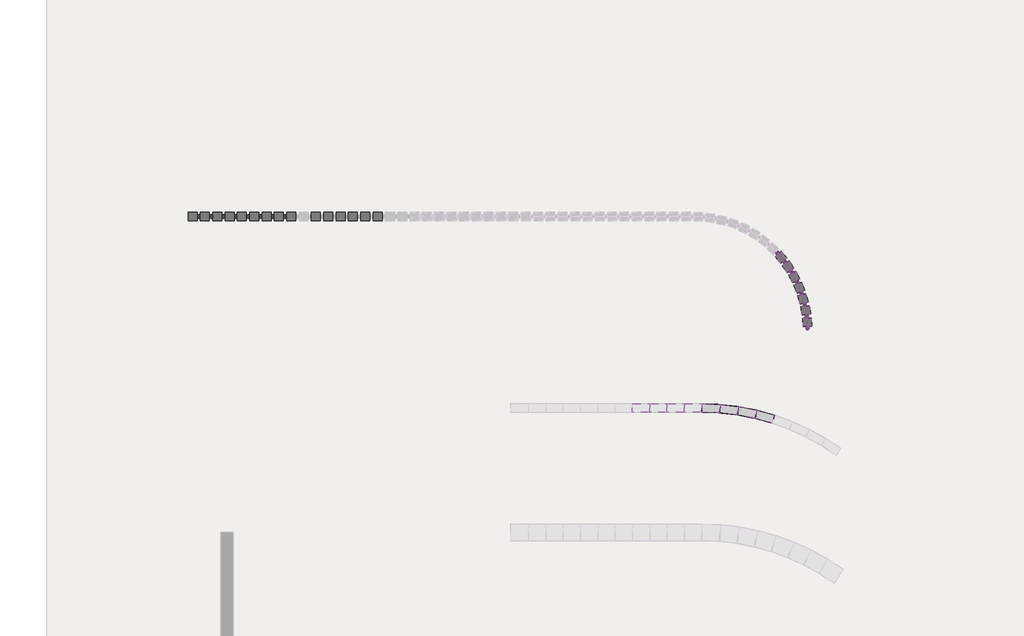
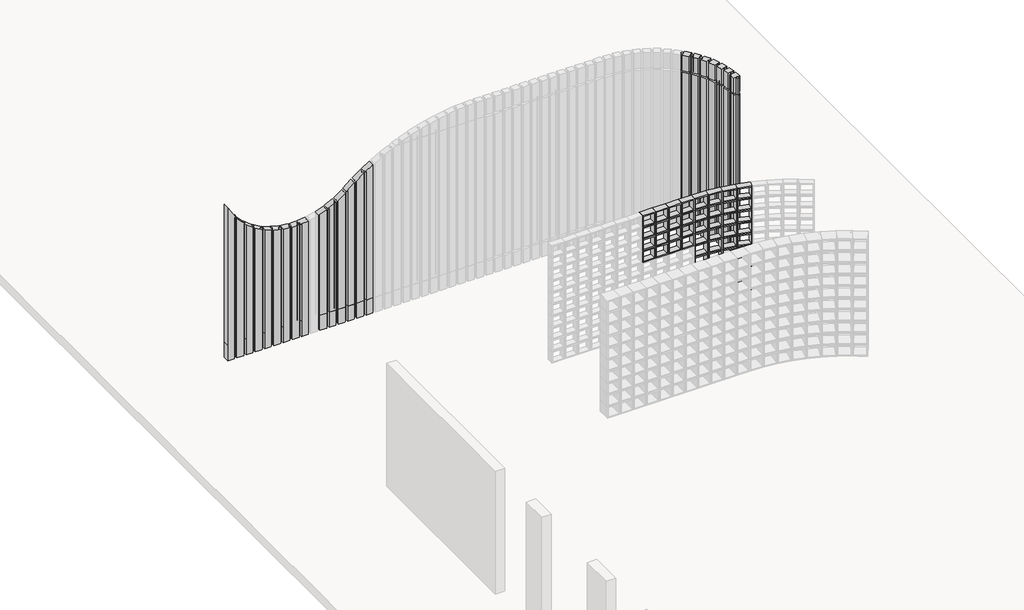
# One storey, part 9 of 15: 91 plates, 42 members.
"""IFC4 building model written with IfcOpenShell, lengths in millimetres."""

from ifc_helpers import new_model, si_unit, origin, place, context, project, spatial, transform, mapped, element, save
from components import circular_mullion_9bc5a1a1, circular_mullion_f2f76ee6, circular_mullion_f3b0c618, circular_mullion_598166cf, circular_mullion_dbb40213, circular_mullion_bc05f9c5, circular_mullion_d627afaf, circular_mullion_25bdcd02, circular_mullion_e8a92ebc, circular_mullion_f0fc4721, circular_mullion_dbe84026, circular_mullion_3d088c91, circular_mullion_b72c217d, rectangular_mullion_91b8a297, plate_64430686, plate_6f004fc1, empty_system_panel_vazio_54c19a60, empty_system_panel_vazio_90e492d3, empty_system_panel_vazio_a0e43196, empty_system_panel_vazio_c9e882c8, empty_system_panel_vazio_26861695, empty_system_panel_vazio_706881e9, empty_system_panel_vazio_7a6be532, empty_system_panel_vazio_fe81b130, empty_system_panel_vazio_3a64aa83, empty_system_panel_vazio_5330fe84, empty_system_panel_vazio_6bf3c55c, empty_system_panel_vazio_673e1f21, empty_system_panel_vazio_2f86a139, empty_system_panel_vazio_a3524aa6, empty_system_panel_vazio_c92cf2f5, empty_system_panel_vazio_d471524a, empty_system_panel_vazio_a540620c, empty_system_panel_vazio_f7d425da

model = new_model("IFC4")

# Units and contexts
model_context = context("Model", 3, world=origin())
ifc_project = project(units=[si_unit("LENGTHUNIT", "METRE", prefix="MILLI")], contexts=[model_context])

# Site, building, storey
site = spatial("IfcSite", under=ifc_project)
building = spatial("IfcBuilding", under=site)
storey = spatial("IfcBuildingStorey", under=building, Name="TÉRREO", Elevation=0.0)

# Members
placement = place(None, origin())
circular_mullion_shape = circular_mullion_9bc5a1a1(model_context)
element("IfcMember", 1, ObjectType="Circular Mullion : GRADIL 40mm", at=placement, inside=storey, context=model_context, shape_type="MappedRepresentation", body=[
    mapped(circular_mullion_shape, transform((41910.6284273, 8426.4806607, 0.0), x_axis=(-1.0, 0.0, 0.0), y_axis=(0.0, 1.0, 0.0), z_axis=(0.0, 0.0, -1.0))),
])
element("IfcMember", 2, ObjectType="Circular Mullion : GRADIL 40mm", at=placement, inside=storey, context=model_context, shape_type="MappedRepresentation", body=[
    mapped(circular_mullion_shape, transform((41761.8479395, 8426.4806607, 0.0), x_axis=(-1.0, 0.0, 0.0), y_axis=(0.0, 1.0, 0.0), z_axis=(0.0, 0.0, -1.0))),
])
element("IfcMember", 3, ObjectType="Circular Mullion : GRADIL 40mm", at=placement, inside=storey, context=model_context, shape_type="MappedRepresentation", body=[
    mapped(circular_mullion_shape, transform((41613.0674517, 8426.4806607, 0.0), x_axis=(-1.0, 0.0, 0.0), y_axis=(0.0, 1.0, 0.0), z_axis=(0.0, 0.0, -1.0))),
])
element("IfcMember", 4, ObjectType="Circular Mullion : GRADIL 40mm", at=placement, inside=storey, context=model_context, shape_type="MappedRepresentation", body=[
    mapped(circular_mullion_shape, transform((40869.1650127, 8426.4806607, 0.0), x_axis=(-1.0, 0.0, 0.0), y_axis=(0.0, 1.0, 0.0), z_axis=(0.0, 0.0, -1.0))),
])
element("IfcMember", 5, ObjectType="Circular Mullion : GRADIL 40mm", at=placement, inside=storey, context=model_context, shape_type="MappedRepresentation", body=[
    mapped(circular_mullion_shape, transform((40720.3845249, 8426.4806607, 0.0), x_axis=(-1.0, 0.0, 0.0), y_axis=(0.0, 1.0, 0.0), z_axis=(0.0, 0.0, -1.0))),
])
element("IfcMember", 6, ObjectType="Circular Mullion : GRADIL 40mm", at=placement, inside=storey, context=model_context, shape_type="MappedRepresentation", body=[
    mapped(circular_mullion_shape, transform((40571.6040371, 8426.4806607, 0.0), x_axis=(-1.0, 0.0, 0.0), y_axis=(0.0, 1.0, 0.0), z_axis=(0.0, 0.0, -1.0))),
])
element("IfcMember", 7, ObjectType="Circular Mullion : GRADIL 40mm", at=placement, inside=storey, context=model_context, shape_type="MappedRepresentation", body=[
    mapped(circular_mullion_shape, transform((40422.8235493, 8426.4806607, 0.0), x_axis=(-1.0, 0.0, 0.0), y_axis=(0.0, 1.0, 0.0), z_axis=(0.0, 0.0, -1.0))),
])
element("IfcMember", 8, ObjectType="Circular Mullion : GRADIL 40mm", at=placement, inside=storey, context=model_context, shape_type="MappedRepresentation", body=[
    mapped(circular_mullion_shape, transform((40274.0430615, 8426.4806607, 0.0), x_axis=(-1.0, 0.0, 0.0), y_axis=(0.0, 1.0, 0.0), z_axis=(0.0, 0.0, -1.0))),
])
element("IfcMember", 9, ObjectType="Circular Mullion : GRADIL 40mm", at=placement, inside=storey, context=model_context, shape_type="MappedRepresentation", body=[
    mapped(circular_mullion_shape, transform((40125.2625737, 8426.4806607, 0.0), x_axis=(-1.0, 0.0, 0.0), y_axis=(0.0, 1.0, 0.0), z_axis=(0.0, 0.0, -1.0))),
])
element("IfcMember", 10, ObjectType="Circular Mullion : GRADIL 40mm", at=placement, inside=storey, context=model_context, shape_type="MappedRepresentation", body=[
    mapped(circular_mullion_shape, transform((39976.4820859, 8426.4806607, 0.0), x_axis=(-1.0, 0.0, 0.0), y_axis=(0.0, 1.0, 0.0), z_axis=(0.0, 0.0, -1.0))),
])
element("IfcMember", 11, ObjectType="Circular Mullion : GRADIL 40mm", at=placement, inside=storey, context=model_context, shape_type="MappedRepresentation", body=[
    mapped(circular_mullion_shape, transform((39827.701598, 8426.4806607, 0.0), x_axis=(-1.0, 0.0, 0.0), y_axis=(0.0, 1.0, 0.0), z_axis=(0.0, 0.0, -1.0))),
])
circular_mullion_2_shape = circular_mullion_f2f76ee6(model_context)
element("IfcMember", 12, ObjectType="Circular Mullion : GRADIL 40mm", at=placement, inside=storey, context=model_context, shape_type="MappedRepresentation", body=[
    mapped(circular_mullion_2_shape, transform((47161.6124239, 7222.1280663, 2720.0), x_axis=(-0.12289512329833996, 0.992419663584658, 0.0), y_axis=(0.992419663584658, 0.12289512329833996, 0.0), z_axis=(0.0, 0.0, -1.0))),
])
element("IfcMember", 13, ObjectType="Circular Mullion : GRADIL 40mm", at=placement, inside=storey, context=model_context, shape_type="MappedRepresentation", body=[
    mapped(circular_mullion_2_shape, transform((47136.5950322, 7363.2706696, 2720.0), x_axis=(-0.22568633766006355, 0.9742000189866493, 0.0), y_axis=(0.9742000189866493, 0.22568633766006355, 0.0), z_axis=(0.0, 0.0, -1.0))),
])
element("IfcMember", 14, ObjectType="Circular Mullion : GRADIL 40mm", at=placement, inside=storey, context=model_context, shape_type="MappedRepresentation", body=[
    mapped(circular_mullion_2_shape, transform((47096.9996846, 7501.0360964, 2720.0), x_axis=(-0.32601802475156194, 0.9453635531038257, 0.0), y_axis=(0.9453635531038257, 0.32601802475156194, 0.0), z_axis=(0.0, 0.0, -1.0))),
])
element("IfcMember", 15, ObjectType="Circular Mullion : GRADIL 40mm", at=placement, inside=storey, context=model_context, shape_type="MappedRepresentation", body=[
    mapped(circular_mullion_2_shape, transform((47043.2578906, 7633.9229804, 2720.0), x_axis=(-0.4227967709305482, 0.9062245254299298, 0.0), y_axis=(0.9062245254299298, 0.4227967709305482, 0.0), z_axis=(0.0, 0.0, -1.0))),
])
element("IfcMember", 16, ObjectType="Circular Mullion : GRADIL 40mm", at=placement, inside=storey, context=model_context, shape_type="MappedRepresentation", body=[
    mapped(circular_mullion_2_shape, transform((46975.9553279, 7760.4831219, 2720.0), x_axis=(-0.5149678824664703, 0.857209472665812, 0.0), y_axis=(0.857209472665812, 0.5149678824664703, 0.0), z_axis=(0.0, 0.0, -1.0))),
])
element("IfcMember", 17, ObjectType="Circular Mullion : GRADIL 40mm", at=placement, inside=storey, context=model_context, shape_type="MappedRepresentation", body=[
    mapped(circular_mullion_2_shape, transform((46895.825459, 7879.3372698, 2720.0), x_axis=(-0.6015268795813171, 0.7988525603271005, 0.0), y_axis=(0.7988525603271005, 0.6015268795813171, 0.0), z_axis=(0.0, 0.0, -1.0))),
])
element("IfcMember", 18, ObjectType="Circular Mullion : GRADIL 40mm", at=placement, inside=storey, context=model_context, shape_type="MappedRepresentation", body=[
    mapped(circular_mullion_2_shape, transform((46803.7415384, 7989.1901529, 2720.0), x_axis=(-0.68153044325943, 0.7317897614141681, 0.0), y_axis=(0.7317897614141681, 0.68153044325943, 0.0), z_axis=(0.0, 0.0, -1.0))),
])
circular_mullion_3_shape = circular_mullion_f3b0c618(model_context)
element("IfcMember", 19, ObjectType="Circular Mullion : GRADIL 40mm", at=placement, inside=storey, context=model_context, shape_type="MappedRepresentation", body=[
    mapped(circular_mullion_3_shape, transform((40869.1650127, 8426.4806607, 256.7936467), x_axis=(-1.0, 0.0, 0.0), y_axis=(0.0, 1.0, 0.0), z_axis=(0.0, 0.0, -1.0))),
])
circular_mullion_4_shape = circular_mullion_598166cf(model_context)
element("IfcMember", 20, ObjectType="Circular Mullion : GRADIL 40mm", at=placement, inside=storey, context=model_context, shape_type="MappedRepresentation", body=[
    mapped(circular_mullion_4_shape, transform((40720.3845249, 8426.4806607, 256.7936467), x_axis=(-1.0, 0.0, 0.0), y_axis=(0.0, 1.0, 0.0), z_axis=(0.0, 0.0, -1.0))),
])
circular_mullion_5_shape = circular_mullion_dbb40213(model_context)
element("IfcMember", 21, ObjectType="Circular Mullion : GRADIL 40mm", at=placement, inside=storey, context=model_context, shape_type="MappedRepresentation", body=[
    mapped(circular_mullion_5_shape, transform((40571.6040371, 8426.4806607, 256.7936467), x_axis=(-1.0, 0.0, 0.0), y_axis=(0.0, 1.0, 0.0), z_axis=(0.0, 0.0, -1.0))),
])
circular_mullion_6_shape = circular_mullion_bc05f9c5(model_context)
element("IfcMember", 22, ObjectType="Circular Mullion : GRADIL 40mm", at=placement, inside=storey, context=model_context, shape_type="MappedRepresentation", body=[
    mapped(circular_mullion_6_shape, transform((40422.8235493, 8426.4806607, 256.7936467), x_axis=(-1.0, 0.0, 0.0), y_axis=(0.0, 1.0, 0.0), z_axis=(0.0, 0.0, -1.0))),
])
circular_mullion_7_shape = circular_mullion_d627afaf(model_context)
element("IfcMember", 23, ObjectType="Circular Mullion : GRADIL 40mm", at=placement, inside=storey, context=model_context, shape_type="MappedRepresentation", body=[
    mapped(circular_mullion_7_shape, transform((40274.0430615, 8426.4806607, 256.7936467), x_axis=(-1.0, 0.0, 0.0), y_axis=(0.0, 1.0, 0.0), z_axis=(0.0, 0.0, -1.0))),
])
circular_mullion_8_shape = circular_mullion_25bdcd02(model_context)
element("IfcMember", 24, ObjectType="Circular Mullion : GRADIL 40mm", at=placement, inside=storey, context=model_context, shape_type="MappedRepresentation", body=[
    mapped(circular_mullion_8_shape, transform((40125.2625737, 8426.4806607, 256.7936467), x_axis=(-1.0, 0.0, 0.0), y_axis=(0.0, 1.0, 0.0), z_axis=(0.0, 0.0, -1.0))),
])
circular_mullion_9_shape = circular_mullion_e8a92ebc(model_context)
element("IfcMember", 25, ObjectType="Circular Mullion : GRADIL 40mm", at=placement, inside=storey, context=model_context, shape_type="MappedRepresentation", body=[
    mapped(circular_mullion_9_shape, transform((39976.4820859, 8426.4806607, 256.7936467), x_axis=(-1.0, 0.0, 0.0), y_axis=(0.0, 1.0, 0.0), z_axis=(0.0, 0.0, -1.0))),
])
circular_mullion_10_shape = circular_mullion_f0fc4721(model_context)
element("IfcMember", 26, ObjectType="Circular Mullion : GRADIL 40mm", at=placement, inside=storey, context=model_context, shape_type="MappedRepresentation", body=[
    mapped(circular_mullion_10_shape, transform((39827.701598, 8426.4806607, 256.7936467), x_axis=(-1.0, 0.0, 0.0), y_axis=(0.0, 1.0, 0.0), z_axis=(0.0, 0.0, -1.0))),
])
circular_mullion_11_shape = circular_mullion_dbe84026(model_context)
element("IfcMember", 27, ObjectType="Circular Mullion : GRADIL 40mm", at=placement, inside=storey, context=model_context, shape_type="MappedRepresentation", body=[
    mapped(circular_mullion_11_shape, transform((47172.0090025, 7059.1166556, 3000.0), x_axis=(0.06364890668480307, -0.9979723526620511, 0.0), y_axis=(0.9979723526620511, 0.06364890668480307, 0.0), z_axis=(0.0, 0.0, 1.0))),
])
circular_mullion_12_shape = circular_mullion_3d088c91(model_context)
element("IfcMember", 28, ObjectType="Circular Mullion : GRADIL 40mm", at=placement, inside=storey, context=model_context, shape_type="MappedRepresentation", body=[
    mapped(circular_mullion_12_shape, transform((47161.6124239, 7222.1280663, 0.0), x_axis=(-0.12289512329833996, 0.992419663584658, 0.0), y_axis=(0.992419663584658, 0.12289512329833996, 0.0), z_axis=(0.0, 0.0, -1.0))),
])
element("IfcMember", 29, ObjectType="Circular Mullion : GRADIL 40mm", at=placement, inside=storey, context=model_context, shape_type="MappedRepresentation", body=[
    mapped(circular_mullion_12_shape, transform((47136.5950322, 7363.2706696, 0.0), x_axis=(-0.2256863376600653, 0.9742000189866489, 0.0), y_axis=(0.9742000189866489, 0.2256863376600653, 0.0), z_axis=(0.0, 0.0, -1.0))),
])
element("IfcMember", 30, ObjectType="Circular Mullion : GRADIL 40mm", at=placement, inside=storey, context=model_context, shape_type="MappedRepresentation", body=[
    mapped(circular_mullion_12_shape, transform((47096.9996846, 7501.0360964, 0.0), x_axis=(-0.3260180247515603, 0.9453635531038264, 0.0), y_axis=(0.9453635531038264, 0.3260180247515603, 0.0), z_axis=(0.0, 0.0, -1.0))),
])
element("IfcMember", 31, ObjectType="Circular Mullion : GRADIL 40mm", at=placement, inside=storey, context=model_context, shape_type="MappedRepresentation", body=[
    mapped(circular_mullion_12_shape, transform((47043.2578906, 7633.9229804, 0.0), x_axis=(-0.42279677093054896, 0.9062245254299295, 0.0), y_axis=(0.9062245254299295, 0.42279677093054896, 0.0), z_axis=(0.0, 0.0, -1.0))),
])
element("IfcMember", 32, ObjectType="Circular Mullion : GRADIL 40mm", at=placement, inside=storey, context=model_context, shape_type="MappedRepresentation", body=[
    mapped(circular_mullion_12_shape, transform((46975.9553279, 7760.4831219, 0.0), x_axis=(-0.5149678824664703, 0.857209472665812, 0.0), y_axis=(0.857209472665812, 0.5149678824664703, 0.0), z_axis=(0.0, 0.0, -1.0))),
])
element("IfcMember", 33, ObjectType="Circular Mullion : GRADIL 40mm", at=placement, inside=storey, context=model_context, shape_type="MappedRepresentation", body=[
    mapped(circular_mullion_12_shape, transform((46895.825459, 7879.3372698, 0.0), x_axis=(-0.6015268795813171, 0.7988525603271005, 0.0), y_axis=(0.7988525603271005, 0.6015268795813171, 0.0), z_axis=(0.0, 0.0, -1.0))),
])
element("IfcMember", 34, ObjectType="Circular Mullion : GRADIL 40mm", at=placement, inside=storey, context=model_context, shape_type="MappedRepresentation", body=[
    mapped(circular_mullion_12_shape, transform((46803.7415384, 7989.1901529, 0.0), x_axis=(-0.68153044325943, 0.7317897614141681, 0.0), y_axis=(0.7317897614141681, 0.68153044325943, 0.0), z_axis=(0.0, 0.0, -1.0))),
])
circular_mullion_13_shape = circular_mullion_b72c217d(model_context)
element("IfcMember", 35, ObjectType="Circular Mullion : GRADIL 40mm", at=placement, inside=storey, context=model_context, shape_type="MappedRepresentation", body=[
    mapped(circular_mullion_13_shape, transform((47172.0090025, 7059.1166556, 2720.0), x_axis=(0.06364890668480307, -0.9979723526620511, 0.0), y_axis=(0.9979723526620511, 0.06364890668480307, 0.0), z_axis=(0.0, 0.0, 1.0))),
])
rectangular_mullion_shape = rectangular_mullion_91b8a297(model_context)
element("IfcMember", 36, ObjectType="Rectangular Mullion : MT HRZ GRADIL 01", at=placement, inside=storey, context=model_context, shape_type="MappedRepresentation", body=[
    mapped(rectangular_mullion_shape, transform((47162.885402, 7202.1686192, 2720.0), x_axis=(0.0, 0.0, 1.0), y_axis=(0.9979723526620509, 0.06364890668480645, 0.0), z_axis=(-0.06364890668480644, 0.9979723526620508, 0.0))),
])
element("IfcMember", 37, ObjectType="Rectangular Mullion : MT HRZ GRADIL 01", at=placement, inside=storey, context=model_context, shape_type="MappedRepresentation", body=[
    mapped(rectangular_mullion_shape, transform((47140.0856051, 7343.5776277, 2720.0), x_axis=(0.0, 0.0, 1.0), y_axis=(0.9846520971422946, 0.1745286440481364, 0.0), z_axis=(-0.1745286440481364, 0.9846520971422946, 0.0))),
])
element("IfcMember", 38, ObjectType="Rectangular Mullion : MT HRZ GRADIL 01", at=placement, inside=storey, context=model_context, shape_type="MappedRepresentation", body=[
    mapped(rectangular_mullion_shape, transform((47102.5242592, 7481.8142579, 2720.0), x_axis=(0.0, 0.0, 1.0), y_axis=(0.9610919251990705, 0.2762287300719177, 0.0), z_axis=(-0.2762287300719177, 0.9610919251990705, 0.0))),
])
element("IfcMember", 39, ObjectType="Rectangular Mullion : MT HRZ GRADIL 01", at=placement, inside=storey, context=model_context, shape_type="MappedRepresentation", body=[
    mapped(rectangular_mullion_shape, transform((47050.7562602, 7615.3818247, 2720.0), x_axis=(0.0, 0.0, 1.0), y_axis=(0.9270577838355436, 0.37491847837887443, 0.0), z_axis=(-0.37491847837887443, 0.9270577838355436, 0.0))),
])
element("IfcMember", 40, ObjectType="Rectangular Mullion : MT HRZ GRADIL 01", at=placement, inside=storey, context=model_context, shape_type="MappedRepresentation", body=[
    mapped(rectangular_mullion_shape, transform((46985.3457753, 7742.8247104, 2720.0), x_axis=(0.0, 0.0, 1.0), y_axis=(0.882920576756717, 0.46952236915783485, 0.0), z_axis=(-0.46952236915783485, 0.882920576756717, 0.0))),
])
element("IfcMember", 41, ObjectType="Rectangular Mullion : MT HRZ GRADIL 01", at=placement, inside=storey, context=model_context, shape_type="MappedRepresentation", body=[
    mapped(rectangular_mullion_shape, transform((46907.0056472, 7862.7540436, 2720.0), x_axis=(0.0, 0.0, 1.0), y_axis=(0.8291613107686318, 0.5590094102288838, 0.0), z_axis=(-0.5590094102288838, 0.8291613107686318, 0.0))),
])
element("IfcMember", 42, ObjectType="Rectangular Mullion : MT HRZ GRADIL 01", at=placement, inside=storey, context=model_context, shape_type="MappedRepresentation", body=[
    mapped(rectangular_mullion_shape, transform((46816.5896259, 7973.8628358, 2720.0), x_axis=(0.0, 0.0, 1.0), y_axis=(0.7663658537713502, 0.6424043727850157, 0.0), z_axis=(-0.6424043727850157, 0.7663658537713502, 0.0))),
])

# Plates
plate_shape = plate_64430686(model_context)
element("IfcPlate", 43, ObjectType="pnl - ELEMENTO VAZADO QUADRICULADO : e = 10", at=placement, inside=storey, context=model_context, shape_type="MappedRepresentation", body=[
    mapped(plate_shape, transform((45160.2941159, 6116.9852574, 1200.0), x_axis=(1.0, 0.0, 0.0), y_axis=(0.0, 1.0, 0.0), z_axis=(0.0, 0.0, 1.0))),
])
element("IfcPlate", 44, ObjectType="pnl - ELEMENTO VAZADO QUADRICULADO : e = 10", at=placement, inside=storey, context=model_context, shape_type="MappedRepresentation", body=[
    mapped(plate_shape, transform((45369.385025, 6116.9852574, 1200.0), x_axis=(1.0, 0.0, 0.0), y_axis=(0.0, 1.0, 0.0), z_axis=(0.0, 0.0, 1.0))),
])
element("IfcPlate", 45, ObjectType="pnl - ELEMENTO VAZADO QUADRICULADO : e = 10", at=placement, inside=storey, context=model_context, shape_type="MappedRepresentation", body=[
    mapped(plate_shape, transform((45578.4759341, 6116.9852574, 1200.0), x_axis=(1.0, 0.0, 0.0), y_axis=(0.0, 1.0, 0.0), z_axis=(0.0, 0.0, 1.0))),
])
element("IfcPlate", 46, ObjectType="pnl - ELEMENTO VAZADO QUADRICULADO : e = 10", at=placement, inside=storey, context=model_context, shape_type="MappedRepresentation", body=[
    mapped(plate_shape, transform((45787.5668432, 6116.9852574, 1200.0), x_axis=(1.0, 0.0, 0.0), y_axis=(0.0, 1.0, 0.0), z_axis=(0.0, 0.0, 1.0))),
])
element("IfcPlate", 47, ObjectType="pnl - ELEMENTO VAZADO QUADRICULADO : e = 10", at=placement, inside=storey, context=model_context, shape_type="MappedRepresentation", body=[
    mapped(plate_shape, transform((45160.2941159, 6116.9852574, 1400.0), x_axis=(1.0, 0.0, 0.0), y_axis=(0.0, 1.0, 0.0), z_axis=(0.0, 0.0, 1.0))),
])
element("IfcPlate", 48, ObjectType="pnl - ELEMENTO VAZADO QUADRICULADO : e = 10", at=placement, inside=storey, context=model_context, shape_type="MappedRepresentation", body=[
    mapped(plate_shape, transform((45369.385025, 6116.9852574, 1400.0), x_axis=(1.0, 0.0, 0.0), y_axis=(0.0, 1.0, 0.0), z_axis=(0.0, 0.0, 1.0))),
])
element("IfcPlate", 49, ObjectType="pnl - ELEMENTO VAZADO QUADRICULADO : e = 10", at=placement, inside=storey, context=model_context, shape_type="MappedRepresentation", body=[
    mapped(plate_shape, transform((45578.4759341, 6116.9852574, 1400.0), x_axis=(1.0, 0.0, 0.0), y_axis=(0.0, 1.0, 0.0), z_axis=(0.0, 0.0, 1.0))),
])
element("IfcPlate", 50, ObjectType="pnl - ELEMENTO VAZADO QUADRICULADO : e = 10", at=placement, inside=storey, context=model_context, shape_type="MappedRepresentation", body=[
    mapped(plate_shape, transform((45787.5668432, 6116.9852574, 1400.0), x_axis=(1.0, 0.0, 0.0), y_axis=(0.0, 1.0, 0.0), z_axis=(0.0, 0.0, 1.0))),
])
element("IfcPlate", 51, ObjectType="pnl - ELEMENTO VAZADO QUADRICULADO : e = 10", at=placement, inside=storey, context=model_context, shape_type="MappedRepresentation", body=[
    mapped(plate_shape, transform((45160.2941159, 6116.9852574, 1600.0), x_axis=(1.0, 0.0, 0.0), y_axis=(0.0, 1.0, 0.0), z_axis=(0.0, 0.0, 1.0))),
])
element("IfcPlate", 52, ObjectType="pnl - ELEMENTO VAZADO QUADRICULADO : e = 10", at=placement, inside=storey, context=model_context, shape_type="MappedRepresentation", body=[
    mapped(plate_shape, transform((45369.385025, 6116.9852574, 1600.0), x_axis=(1.0, 0.0, 0.0), y_axis=(0.0, 1.0, 0.0), z_axis=(0.0, 0.0, 1.0))),
])
element("IfcPlate", 53, ObjectType="pnl - ELEMENTO VAZADO QUADRICULADO : e = 10", at=placement, inside=storey, context=model_context, shape_type="MappedRepresentation", body=[
    mapped(plate_shape, transform((45578.4759341, 6116.9852574, 1600.0), x_axis=(1.0, 0.0, 0.0), y_axis=(0.0, 1.0, 0.0), z_axis=(0.0, 0.0, 1.0))),
])
element("IfcPlate", 54, ObjectType="pnl - ELEMENTO VAZADO QUADRICULADO : e = 10", at=placement, inside=storey, context=model_context, shape_type="MappedRepresentation", body=[
    mapped(plate_shape, transform((45787.5668432, 6116.9852574, 1600.0), x_axis=(1.0, 0.0, 0.0), y_axis=(0.0, 1.0, 0.0), z_axis=(0.0, 0.0, 1.0))),
])
element("IfcPlate", 55, ObjectType="pnl - ELEMENTO VAZADO QUADRICULADO : e = 10", at=placement, inside=storey, context=model_context, shape_type="MappedRepresentation", body=[
    mapped(plate_shape, transform((45160.2941159, 6116.9852574, 1800.0), x_axis=(1.0, 0.0, 0.0), y_axis=(0.0, 1.0, 0.0), z_axis=(0.0, 0.0, 1.0))),
])
element("IfcPlate", 56, ObjectType="pnl - ELEMENTO VAZADO QUADRICULADO : e = 10", at=placement, inside=storey, context=model_context, shape_type="MappedRepresentation", body=[
    mapped(plate_shape, transform((45369.385025, 6116.9852574, 1800.0), x_axis=(1.0, 0.0, 0.0), y_axis=(0.0, 1.0, 0.0), z_axis=(0.0, 0.0, 1.0))),
])
element("IfcPlate", 57, ObjectType="pnl - ELEMENTO VAZADO QUADRICULADO : e = 10", at=placement, inside=storey, context=model_context, shape_type="MappedRepresentation", body=[
    mapped(plate_shape, transform((45578.4759341, 6116.9852574, 1800.0), x_axis=(1.0, 0.0, 0.0), y_axis=(0.0, 1.0, 0.0), z_axis=(0.0, 0.0, 1.0))),
])
element("IfcPlate", 58, ObjectType="pnl - ELEMENTO VAZADO QUADRICULADO : e = 10", at=placement, inside=storey, context=model_context, shape_type="MappedRepresentation", body=[
    mapped(plate_shape, transform((45787.5668432, 6116.9852574, 1800.0), x_axis=(1.0, 0.0, 0.0), y_axis=(0.0, 1.0, 0.0), z_axis=(0.0, 0.0, 1.0))),
])
plate_2_shape = plate_6f004fc1(model_context)
element("IfcPlate", 59, ObjectType="pnl - ELEMENTO VAZADO QUADRICULADO : e = 10", at=placement, inside=storey, context=model_context, shape_type="MappedRepresentation", body=[
    mapped(plate_2_shape, transform((46002.1830661, 6112.7180919, 0.0), x_axis=(0.9992493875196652, -0.03873837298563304, 0.0), y_axis=(0.03873837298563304, 0.9992493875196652, 0.0), z_axis=(0.0, 0.0, 1.0))),
])
element("IfcPlate", 60, ObjectType="pnl - ELEMENTO VAZADO QUADRICULADO : e = 10", at=placement, inside=storey, context=model_context, shape_type="MappedRepresentation", body=[
    mapped(plate_2_shape, transform((46221.6638871, 6095.6750443, 0.0), x_axis=(0.993251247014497, -0.11598258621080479, 0.0), y_axis=(0.11598258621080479, 0.993251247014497, 0.0), z_axis=(0.0, 0.0, 1.0))),
])
element("IfcPlate", 61, ObjectType="pnl - ELEMENTO VAZADO QUADRICULADO : e = 10", at=placement, inside=storey, context=model_context, shape_type="MappedRepresentation", body=[
    mapped(plate_2_shape, transform((46439.1665264, 6061.6912525, 0.0), x_axis=(0.981290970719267, -0.1925305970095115, 0.0), y_axis=(0.1925305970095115, 0.981290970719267, 0.0), z_axis=(0.0, 0.0, 1.0))),
])
element("IfcPlate", 62, ObjectType="pnl - ELEMENTO VAZADO QUADRICULADO : e = 10", at=placement, inside=storey, context=model_context, shape_type="MappedRepresentation", body=[
    mapped(plate_2_shape, transform((46653.3853928, 6010.9707092, 0.0), x_axis=(0.9634403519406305, -0.2679229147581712, 0.0), y_axis=(0.2679229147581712, 0.9634403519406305, 0.0), z_axis=(0.0, 0.0, 1.0))),
])
element("IfcPlate", 63, ObjectType="pnl - ELEMENTO VAZADO QUADRICULADO : e = 10", at=placement, inside=storey, context=model_context, shape_type="MappedRepresentation", body=[
    mapped(plate_2_shape, transform((46002.1830661, 6112.7180919, 200.0), x_axis=(0.9992493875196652, -0.03873837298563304, 0.0), y_axis=(0.03873837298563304, 0.9992493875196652, 0.0), z_axis=(0.0, 0.0, 1.0))),
])
element("IfcPlate", 64, ObjectType="pnl - ELEMENTO VAZADO QUADRICULADO : e = 10", at=placement, inside=storey, context=model_context, shape_type="MappedRepresentation", body=[
    mapped(plate_2_shape, transform((46221.6638871, 6095.6750443, 200.0), x_axis=(0.993251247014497, -0.11598258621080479, 0.0), y_axis=(0.11598258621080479, 0.993251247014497, 0.0), z_axis=(0.0, 0.0, 1.0))),
])
element("IfcPlate", 65, ObjectType="pnl - ELEMENTO VAZADO QUADRICULADO : e = 10", at=placement, inside=storey, context=model_context, shape_type="MappedRepresentation", body=[
    mapped(plate_2_shape, transform((46439.1665264, 6061.6912525, 200.0), x_axis=(0.981290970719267, -0.1925305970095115, 0.0), y_axis=(0.1925305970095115, 0.981290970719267, 0.0), z_axis=(0.0, 0.0, 1.0))),
])
element("IfcPlate", 66, ObjectType="pnl - ELEMENTO VAZADO QUADRICULADO : e = 10", at=placement, inside=storey, context=model_context, shape_type="MappedRepresentation", body=[
    mapped(plate_2_shape, transform((46653.3853928, 6010.9707092, 200.0), x_axis=(0.9634403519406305, -0.2679229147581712, 0.0), y_axis=(0.2679229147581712, 0.9634403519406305, 0.0), z_axis=(0.0, 0.0, 1.0))),
])
element("IfcPlate", 67, ObjectType="pnl - ELEMENTO VAZADO QUADRICULADO : e = 10", at=placement, inside=storey, context=model_context, shape_type="MappedRepresentation", body=[
    mapped(plate_2_shape, transform((46002.1830661, 6112.7180919, 400.0), x_axis=(0.9992493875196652, -0.03873837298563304, 0.0), y_axis=(0.03873837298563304, 0.9992493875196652, 0.0), z_axis=(0.0, 0.0, 1.0))),
])
element("IfcPlate", 68, ObjectType="pnl - ELEMENTO VAZADO QUADRICULADO : e = 10", at=placement, inside=storey, context=model_context, shape_type="MappedRepresentation", body=[
    mapped(plate_2_shape, transform((46221.6638871, 6095.6750443, 400.0), x_axis=(0.993251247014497, -0.11598258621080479, 0.0), y_axis=(0.11598258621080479, 0.993251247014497, 0.0), z_axis=(0.0, 0.0, 1.0))),
])
element("IfcPlate", 69, ObjectType="pnl - ELEMENTO VAZADO QUADRICULADO : e = 10", at=placement, inside=storey, context=model_context, shape_type="MappedRepresentation", body=[
    mapped(plate_2_shape, transform((46439.1665264, 6061.6912525, 400.0), x_axis=(0.981290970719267, -0.1925305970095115, 0.0), y_axis=(0.1925305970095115, 0.981290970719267, 0.0), z_axis=(0.0, 0.0, 1.0))),
])
element("IfcPlate", 70, ObjectType="pnl - ELEMENTO VAZADO QUADRICULADO : e = 10", at=placement, inside=storey, context=model_context, shape_type="MappedRepresentation", body=[
    mapped(plate_2_shape, transform((46653.3853928, 6010.9707092, 400.0), x_axis=(0.9634403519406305, -0.2679229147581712, 0.0), y_axis=(0.2679229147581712, 0.9634403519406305, 0.0), z_axis=(0.0, 0.0, 1.0))),
])
element("IfcPlate", 71, ObjectType="pnl - ELEMENTO VAZADO QUADRICULADO : e = 10", at=placement, inside=storey, context=model_context, shape_type="MappedRepresentation", body=[
    mapped(plate_2_shape, transform((46002.1830661, 6112.7180919, 600.0), x_axis=(0.9992493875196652, -0.03873837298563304, 0.0), y_axis=(0.03873837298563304, 0.9992493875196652, 0.0), z_axis=(0.0, 0.0, 1.0))),
])
element("IfcPlate", 72, ObjectType="pnl - ELEMENTO VAZADO QUADRICULADO : e = 10", at=placement, inside=storey, context=model_context, shape_type="MappedRepresentation", body=[
    mapped(plate_2_shape, transform((46221.6638871, 6095.6750443, 600.0), x_axis=(0.993251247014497, -0.11598258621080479, 0.0), y_axis=(0.11598258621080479, 0.993251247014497, 0.0), z_axis=(0.0, 0.0, 1.0))),
])
element("IfcPlate", 73, ObjectType="pnl - ELEMENTO VAZADO QUADRICULADO : e = 10", at=placement, inside=storey, context=model_context, shape_type="MappedRepresentation", body=[
    mapped(plate_2_shape, transform((46439.1665264, 6061.6912525, 600.0), x_axis=(0.981290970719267, -0.1925305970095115, 0.0), y_axis=(0.1925305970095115, 0.981290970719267, 0.0), z_axis=(0.0, 0.0, 1.0))),
])
element("IfcPlate", 74, ObjectType="pnl - ELEMENTO VAZADO QUADRICULADO : e = 10", at=placement, inside=storey, context=model_context, shape_type="MappedRepresentation", body=[
    mapped(plate_2_shape, transform((46653.3853928, 6010.9707092, 600.0), x_axis=(0.9634403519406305, -0.2679229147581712, 0.0), y_axis=(0.2679229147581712, 0.9634403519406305, 0.0), z_axis=(0.0, 0.0, 1.0))),
])
element("IfcPlate", 75, ObjectType="pnl - ELEMENTO VAZADO QUADRICULADO : e = 10", at=placement, inside=storey, context=model_context, shape_type="MappedRepresentation", body=[
    mapped(plate_2_shape, transform((46002.1830661, 6112.7180919, 800.0), x_axis=(0.9992493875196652, -0.03873837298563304, 0.0), y_axis=(0.03873837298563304, 0.9992493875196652, 0.0), z_axis=(0.0, 0.0, 1.0))),
])
element("IfcPlate", 76, ObjectType="pnl - ELEMENTO VAZADO QUADRICULADO : e = 10", at=placement, inside=storey, context=model_context, shape_type="MappedRepresentation", body=[
    mapped(plate_2_shape, transform((46221.6638871, 6095.6750443, 800.0), x_axis=(0.993251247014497, -0.11598258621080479, 0.0), y_axis=(0.11598258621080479, 0.993251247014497, 0.0), z_axis=(0.0, 0.0, 1.0))),
])
element("IfcPlate", 77, ObjectType="pnl - ELEMENTO VAZADO QUADRICULADO : e = 10", at=placement, inside=storey, context=model_context, shape_type="MappedRepresentation", body=[
    mapped(plate_2_shape, transform((46439.1665264, 6061.6912525, 800.0), x_axis=(0.981290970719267, -0.1925305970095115, 0.0), y_axis=(0.1925305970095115, 0.981290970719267, 0.0), z_axis=(0.0, 0.0, 1.0))),
])
element("IfcPlate", 78, ObjectType="pnl - ELEMENTO VAZADO QUADRICULADO : e = 10", at=placement, inside=storey, context=model_context, shape_type="MappedRepresentation", body=[
    mapped(plate_2_shape, transform((46653.3853928, 6010.9707092, 800.0), x_axis=(0.9634403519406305, -0.2679229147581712, 0.0), y_axis=(0.2679229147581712, 0.9634403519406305, 0.0), z_axis=(0.0, 0.0, 1.0))),
])
element("IfcPlate", 79, ObjectType="pnl - ELEMENTO VAZADO QUADRICULADO : e = 10", at=placement, inside=storey, context=model_context, shape_type="MappedRepresentation", body=[
    mapped(plate_2_shape, transform((46002.1830661, 6112.7180919, 1000.0), x_axis=(0.9992493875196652, -0.03873837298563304, 0.0), y_axis=(0.03873837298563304, 0.9992493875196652, 0.0), z_axis=(0.0, 0.0, 1.0))),
])
element("IfcPlate", 80, ObjectType="pnl - ELEMENTO VAZADO QUADRICULADO : e = 10", at=placement, inside=storey, context=model_context, shape_type="MappedRepresentation", body=[
    mapped(plate_2_shape, transform((46221.6638871, 6095.6750443, 1000.0), x_axis=(0.993251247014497, -0.11598258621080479, 0.0), y_axis=(0.11598258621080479, 0.993251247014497, 0.0), z_axis=(0.0, 0.0, 1.0))),
])
element("IfcPlate", 81, ObjectType="pnl - ELEMENTO VAZADO QUADRICULADO : e = 10", at=placement, inside=storey, context=model_context, shape_type="MappedRepresentation", body=[
    mapped(plate_2_shape, transform((46439.1665264, 6061.6912525, 1000.0), x_axis=(0.981290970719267, -0.1925305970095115, 0.0), y_axis=(0.1925305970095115, 0.981290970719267, 0.0), z_axis=(0.0, 0.0, 1.0))),
])
element("IfcPlate", 82, ObjectType="pnl - ELEMENTO VAZADO QUADRICULADO : e = 10", at=placement, inside=storey, context=model_context, shape_type="MappedRepresentation", body=[
    mapped(plate_2_shape, transform((46653.3853928, 6010.9707092, 1000.0), x_axis=(0.9634403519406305, -0.2679229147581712, 0.0), y_axis=(0.2679229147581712, 0.9634403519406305, 0.0), z_axis=(0.0, 0.0, 1.0))),
])
element("IfcPlate", 83, ObjectType="pnl - ELEMENTO VAZADO QUADRICULADO : e = 10", at=placement, inside=storey, context=model_context, shape_type="MappedRepresentation", body=[
    mapped(plate_2_shape, transform((46002.1830661, 6112.7180919, 1200.0), x_axis=(0.9992493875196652, -0.03873837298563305, 0.0), y_axis=(0.03873837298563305, 0.9992493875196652, 0.0), z_axis=(0.0, 0.0, 1.0))),
])
element("IfcPlate", 84, ObjectType="pnl - ELEMENTO VAZADO QUADRICULADO : e = 10", at=placement, inside=storey, context=model_context, shape_type="MappedRepresentation", body=[
    mapped(plate_2_shape, transform((46221.6638871, 6095.6750443, 1200.0), x_axis=(0.993251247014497, -0.11598258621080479, 0.0), y_axis=(0.11598258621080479, 0.993251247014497, 0.0), z_axis=(0.0, 0.0, 1.0))),
])
element("IfcPlate", 85, ObjectType="pnl - ELEMENTO VAZADO QUADRICULADO : e = 10", at=placement, inside=storey, context=model_context, shape_type="MappedRepresentation", body=[
    mapped(plate_2_shape, transform((46439.1665264, 6061.6912525, 1200.0), x_axis=(0.981290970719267, -0.19253059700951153, 0.0), y_axis=(0.19253059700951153, 0.981290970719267, 0.0), z_axis=(0.0, 0.0, 1.0))),
])
element("IfcPlate", 86, ObjectType="pnl - ELEMENTO VAZADO QUADRICULADO : e = 10", at=placement, inside=storey, context=model_context, shape_type="MappedRepresentation", body=[
    mapped(plate_2_shape, transform((46653.3853928, 6010.9707092, 1200.0), x_axis=(0.9634403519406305, -0.2679229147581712, 0.0), y_axis=(0.2679229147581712, 0.9634403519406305, 0.0), z_axis=(0.0, 0.0, 1.0))),
])
element("IfcPlate", 87, ObjectType="pnl - ELEMENTO VAZADO QUADRICULADO : e = 10", at=placement, inside=storey, context=model_context, shape_type="MappedRepresentation", body=[
    mapped(plate_2_shape, transform((46002.1830661, 6112.7180919, 1400.0), x_axis=(0.9992493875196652, -0.03873837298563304, 0.0), y_axis=(0.03873837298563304, 0.9992493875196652, 0.0), z_axis=(0.0, 0.0, 1.0))),
])
element("IfcPlate", 88, ObjectType="pnl - ELEMENTO VAZADO QUADRICULADO : e = 10", at=placement, inside=storey, context=model_context, shape_type="MappedRepresentation", body=[
    mapped(plate_2_shape, transform((46221.6638871, 6095.6750443, 1400.0), x_axis=(0.993251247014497, -0.11598258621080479, 0.0), y_axis=(0.11598258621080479, 0.993251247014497, 0.0), z_axis=(0.0, 0.0, 1.0))),
])
element("IfcPlate", 89, ObjectType="pnl - ELEMENTO VAZADO QUADRICULADO : e = 10", at=placement, inside=storey, context=model_context, shape_type="MappedRepresentation", body=[
    mapped(plate_2_shape, transform((46439.1665264, 6061.6912525, 1400.0), x_axis=(0.981290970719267, -0.1925305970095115, 0.0), y_axis=(0.1925305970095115, 0.981290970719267, 0.0), z_axis=(0.0, 0.0, 1.0))),
])
element("IfcPlate", 90, ObjectType="pnl - ELEMENTO VAZADO QUADRICULADO : e = 10", at=placement, inside=storey, context=model_context, shape_type="MappedRepresentation", body=[
    mapped(plate_2_shape, transform((46653.3853928, 6010.9707092, 1400.0), x_axis=(0.9634403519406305, -0.2679229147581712, 0.0), y_axis=(0.2679229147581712, 0.9634403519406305, 0.0), z_axis=(0.0, 0.0, 1.0))),
])
element("IfcPlate", 91, ObjectType="pnl - ELEMENTO VAZADO QUADRICULADO : e = 10", at=placement, inside=storey, context=model_context, shape_type="MappedRepresentation", body=[
    mapped(plate_2_shape, transform((46002.1830661, 6112.7180919, 1600.0), x_axis=(0.9992493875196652, -0.03873837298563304, 0.0), y_axis=(0.03873837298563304, 0.9992493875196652, 0.0), z_axis=(0.0, 0.0, 1.0))),
])
element("IfcPlate", 92, ObjectType="pnl - ELEMENTO VAZADO QUADRICULADO : e = 10", at=placement, inside=storey, context=model_context, shape_type="MappedRepresentation", body=[
    mapped(plate_2_shape, transform((46221.6638871, 6095.6750443, 1600.0), x_axis=(0.993251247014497, -0.11598258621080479, 0.0), y_axis=(0.11598258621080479, 0.993251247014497, 0.0), z_axis=(0.0, 0.0, 1.0))),
])
element("IfcPlate", 93, ObjectType="pnl - ELEMENTO VAZADO QUADRICULADO : e = 10", at=placement, inside=storey, context=model_context, shape_type="MappedRepresentation", body=[
    mapped(plate_2_shape, transform((46439.1665264, 6061.6912525, 1600.0), x_axis=(0.981290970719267, -0.1925305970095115, 0.0), y_axis=(0.1925305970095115, 0.981290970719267, 0.0), z_axis=(0.0, 0.0, 1.0))),
])
element("IfcPlate", 94, ObjectType="pnl - ELEMENTO VAZADO QUADRICULADO : e = 10", at=placement, inside=storey, context=model_context, shape_type="MappedRepresentation", body=[
    mapped(plate_2_shape, transform((46653.3853928, 6010.9707092, 1600.0), x_axis=(0.9634403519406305, -0.2679229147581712, 0.0), y_axis=(0.2679229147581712, 0.9634403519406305, 0.0), z_axis=(0.0, 0.0, 1.0))),
])
element("IfcPlate", 95, ObjectType="pnl - ELEMENTO VAZADO QUADRICULADO : e = 10", at=placement, inside=storey, context=model_context, shape_type="MappedRepresentation", body=[
    mapped(plate_2_shape, transform((46002.1830661, 6112.7180919, 1800.0), x_axis=(0.9992493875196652, -0.03873837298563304, 0.0), y_axis=(0.03873837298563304, 0.9992493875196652, 0.0), z_axis=(0.0, 0.0, 1.0))),
])
element("IfcPlate", 96, ObjectType="pnl - ELEMENTO VAZADO QUADRICULADO : e = 10", at=placement, inside=storey, context=model_context, shape_type="MappedRepresentation", body=[
    mapped(plate_2_shape, transform((46221.6638871, 6095.6750443, 1800.0), x_axis=(0.993251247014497, -0.11598258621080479, 0.0), y_axis=(0.11598258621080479, 0.993251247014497, 0.0), z_axis=(0.0, 0.0, 1.0))),
])
element("IfcPlate", 97, ObjectType="pnl - ELEMENTO VAZADO QUADRICULADO : e = 10", at=placement, inside=storey, context=model_context, shape_type="MappedRepresentation", body=[
    mapped(plate_2_shape, transform((46439.1665264, 6061.6912525, 1800.0), x_axis=(0.981290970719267, -0.1925305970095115, 0.0), y_axis=(0.1925305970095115, 0.981290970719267, 0.0), z_axis=(0.0, 0.0, 1.0))),
])
element("IfcPlate", 98, ObjectType="pnl - ELEMENTO VAZADO QUADRICULADO : e = 10", at=placement, inside=storey, context=model_context, shape_type="MappedRepresentation", body=[
    mapped(plate_2_shape, transform((46653.3853928, 6010.9707092, 1800.0), x_axis=(0.9634403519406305, -0.2679229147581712, 0.0), y_axis=(0.2679229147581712, 0.9634403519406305, 0.0), z_axis=(0.0, 0.0, 1.0))),
])
empty_system_panel_vazio_shape = empty_system_panel_vazio_54c19a60(model_context)
element("IfcPlate", 99, ObjectType="Empty System Panel : VAZIO", at=placement, inside=storey, context=model_context, shape_type="MappedRepresentation", body=[
    mapped(empty_system_panel_vazio_shape, transform((41985.0186712, 8426.4806607, 0.0), x_axis=(-1.0, 0.0, 0.0), y_axis=(0.0, -1.0, 0.0), z_axis=(0.0, 0.0, 1.0))),
])
element("IfcPlate", 100, ObjectType="Empty System Panel : VAZIO", at=placement, inside=storey, context=model_context, shape_type="MappedRepresentation", body=[
    mapped(empty_system_panel_vazio_shape, transform((41836.2381834, 8426.4806607, 0.0), x_axis=(-1.0, 0.0, 0.0), y_axis=(0.0, -1.0, 0.0), z_axis=(0.0, 0.0, 1.0))),
])
element("IfcPlate", 101, ObjectType="Empty System Panel : VAZIO", at=placement, inside=storey, context=model_context, shape_type="MappedRepresentation", body=[
    mapped(empty_system_panel_vazio_shape, transform((41687.4576956, 8426.4806607, 0.0), x_axis=(-1.0, 0.0, 0.0), y_axis=(0.0, -1.0, 0.0), z_axis=(0.0, 0.0, 1.0))),
])
element("IfcPlate", 102, ObjectType="Empty System Panel : VAZIO", at=placement, inside=storey, context=model_context, shape_type="MappedRepresentation", body=[
    mapped(empty_system_panel_vazio_shape, transform((41538.6772078, 8426.4806607, 0.0), x_axis=(-1.0, 0.0, 0.0), y_axis=(0.0, -1.0, 0.0), z_axis=(0.0, 0.0, 1.0))),
])
element("IfcPlate", 103, ObjectType="Empty System Panel : VAZIO", at=placement, inside=storey, context=model_context, shape_type="MappedRepresentation", body=[
    mapped(empty_system_panel_vazio_shape, transform((41389.89672, 8426.4806607, 0.0), x_axis=(-1.0, 0.0, 0.0), y_axis=(0.0, -1.0, 0.0), z_axis=(0.0, 0.0, 1.0))),
])
element("IfcPlate", 104, ObjectType="Empty System Panel : VAZIO", at=placement, inside=storey, context=model_context, shape_type="MappedRepresentation", body=[
    mapped(empty_system_panel_vazio_shape, transform((41241.1162322, 8426.4806607, 0.0), x_axis=(-1.0, 0.0, 0.0), y_axis=(0.0, -1.0, 0.0), z_axis=(0.0, 0.0, 1.0))),
])
empty_system_panel_vazio_2_shape = empty_system_panel_vazio_90e492d3(model_context)
element("IfcPlate", 105, ObjectType="Empty System Panel : VAZIO", at=placement, inside=storey, context=model_context, shape_type="MappedRepresentation", body=[
    mapped(empty_system_panel_vazio_2_shape, transform((41975.0186712, 8426.4806607, 256.7936467), x_axis=(-1.0, 0.0, 0.0), y_axis=(0.0, -1.0, 0.0), z_axis=(0.0, 0.0, 1.0))),
])
empty_system_panel_vazio_3_shape = empty_system_panel_vazio_a0e43196(model_context)
element("IfcPlate", 106, ObjectType="Empty System Panel : VAZIO", at=placement, inside=storey, context=model_context, shape_type="MappedRepresentation", body=[
    mapped(empty_system_panel_vazio_3_shape, transform((41826.2381834, 8426.4806607, 256.7936467), x_axis=(-1.0, 0.0, 0.0), y_axis=(0.0, -1.0, 0.0), z_axis=(0.0, 0.0, 1.0))),
])
empty_system_panel_vazio_4_shape = empty_system_panel_vazio_c9e882c8(model_context)
element("IfcPlate", 107, ObjectType="Empty System Panel : VAZIO", at=placement, inside=storey, context=model_context, shape_type="MappedRepresentation", body=[
    mapped(empty_system_panel_vazio_4_shape, transform((41677.4576956, 8426.4806607, 256.7936467), x_axis=(-1.0, 0.0, 0.0), y_axis=(0.0, -1.0, 0.0), z_axis=(0.0, 0.0, 1.0))),
])
empty_system_panel_vazio_5_shape = empty_system_panel_vazio_26861695(model_context)
element("IfcPlate", 108, ObjectType="Empty System Panel : VAZIO", at=placement, inside=storey, context=model_context, shape_type="MappedRepresentation", body=[
    mapped(empty_system_panel_vazio_5_shape, transform((41528.6772078, 8426.4806607, 256.7936467), x_axis=(-1.0, 0.0, 0.0), y_axis=(0.0, -1.0, 0.0), z_axis=(0.0, 0.0, 1.0))),
])
empty_system_panel_vazio_6_shape = empty_system_panel_vazio_706881e9(model_context)
element("IfcPlate", 109, ObjectType="Empty System Panel : VAZIO", at=placement, inside=storey, context=model_context, shape_type="MappedRepresentation", body=[
    mapped(empty_system_panel_vazio_6_shape, transform((41379.89672, 8426.4806607, 256.7936467), x_axis=(-1.0, 0.0, 0.0), y_axis=(0.0, -1.0, 0.0), z_axis=(0.0, 0.0, 1.0))),
])
empty_system_panel_vazio_7_shape = empty_system_panel_vazio_7a6be532(model_context)
element("IfcPlate", 110, ObjectType="Empty System Panel : VAZIO", at=placement, inside=storey, context=model_context, shape_type="MappedRepresentation", body=[
    mapped(empty_system_panel_vazio_7_shape, transform((41231.1162322, 8426.4806607, 256.7936467), x_axis=(-1.0, 0.0, 0.0), y_axis=(0.0, -1.0, 0.0), z_axis=(0.0, 0.0, 1.0))),
])
empty_system_panel_vazio_8_shape = empty_system_panel_vazio_fe81b130(model_context)
element("IfcPlate", 111, ObjectType="Empty System Panel : VAZIO", at=placement, inside=storey, context=model_context, shape_type="MappedRepresentation", body=[
    mapped(empty_system_panel_vazio_8_shape, transform((47166.1742241, 7150.6020845, 0.0), x_axis=(-0.06364890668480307, 0.9979723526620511, 0.0), y_axis=(-0.9979723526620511, -0.06364890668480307, 0.0), z_axis=(0.0, 0.0, 1.0))),
])
element("IfcPlate", 112, ObjectType="Empty System Panel : VAZIO", at=placement, inside=storey, context=model_context, shape_type="MappedRepresentation", body=[
    mapped(empty_system_panel_vazio_8_shape, transform((47149.103728, 7292.6993679, 0.0), x_axis=(-0.1745286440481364, 0.9846520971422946, 0.0), y_axis=(-0.9846520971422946, -0.1745286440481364, 0.0), z_axis=(0.0, 0.0, 1.0))),
])
element("IfcPlate", 113, ObjectType="Empty System Panel : VAZIO", at=placement, inside=storey, context=model_context, shape_type="MappedRepresentation", body=[
    mapped(empty_system_panel_vazio_8_shape, transform((47116.7973584, 7432.153383, 0.0), x_axis=(-0.2762287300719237, 0.9610919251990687, 0.0), y_axis=(-0.9610919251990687, -0.2762287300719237, 0.0), z_axis=(0.0, 0.0, 1.0))),
])
element("IfcPlate", 114, ObjectType="Empty System Panel : VAZIO", at=placement, inside=storey, context=model_context, shape_type="MappedRepresentation", body=[
    mapped(empty_system_panel_vazio_8_shape, transform((47070.1287876, 7567.4795384, 0.0), x_axis=(-0.3749184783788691, 0.9270577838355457, 0.0), y_axis=(-0.9270577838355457, -0.3749184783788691, 0.0), z_axis=(0.0, 0.0, 1.0))),
])
element("IfcPlate", 115, ObjectType="Empty System Panel : VAZIO", at=placement, inside=storey, context=model_context, shape_type="MappedRepresentation", body=[
    mapped(empty_system_panel_vazio_8_shape, transform((47009.6066093, 7697.2030512, 0.0), x_axis=(-0.46952236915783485, 0.8829205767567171, 0.0), y_axis=(-0.8829205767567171, -0.46952236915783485, 0.0), z_axis=(0.0, 0.0, 1.0))),
])
element("IfcPlate", 116, ObjectType="Empty System Panel : VAZIO", at=placement, inside=storey, context=model_context, shape_type="MappedRepresentation", body=[
    mapped(empty_system_panel_vazio_8_shape, transform((46935.8903935, 7819.9101959, 0.0), x_axis=(-0.5590094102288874, 0.8291613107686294, 0.0), y_axis=(-0.8291613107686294, -0.5590094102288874, 0.0), z_axis=(0.0, 0.0, 1.0))),
])
element("IfcPlate", 117, ObjectType="Empty System Panel : VAZIO", at=placement, inside=storey, context=model_context, shape_type="MappedRepresentation", body=[
    mapped(empty_system_panel_vazio_8_shape, transform((46849.7834987, 7934.2637114, 0.0), x_axis=(-0.6424043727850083, 0.7663658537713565, 0.0), y_axis=(-0.7663658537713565, -0.6424043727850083, 0.0), z_axis=(0.0, 0.0, 1.0))),
])
empty_system_panel_vazio_9_shape = empty_system_panel_vazio_3a64aa83(model_context)
element("IfcPlate", 118, ObjectType="Empty System Panel : VAZIO", at=placement, inside=storey, context=model_context, shape_type="MappedRepresentation", body=[
    mapped(empty_system_panel_vazio_9_shape, transform((47166.1742241, 7150.6020845, 2735.0), x_axis=(-0.06364890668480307, 0.9979723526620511, 0.0), y_axis=(-0.9979723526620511, -0.06364890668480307, 0.0), z_axis=(0.0, 0.0, 1.0))),
])
element("IfcPlate", 119, ObjectType="Empty System Panel : VAZIO", at=placement, inside=storey, context=model_context, shape_type="MappedRepresentation", body=[
    mapped(empty_system_panel_vazio_9_shape, transform((47149.103728, 7292.6993679, 2735.0), x_axis=(-0.17452864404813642, 0.9846520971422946, 0.0), y_axis=(-0.9846520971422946, -0.17452864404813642, 0.0), z_axis=(0.0, 0.0, 1.0))),
])
element("IfcPlate", 120, ObjectType="Empty System Panel : VAZIO", at=placement, inside=storey, context=model_context, shape_type="MappedRepresentation", body=[
    mapped(empty_system_panel_vazio_9_shape, transform((47116.7973584, 7432.153383, 2735.0), x_axis=(-0.2762287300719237, 0.9610919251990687, 0.0), y_axis=(-0.9610919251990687, -0.2762287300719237, 0.0), z_axis=(0.0, 0.0, 1.0))),
])
element("IfcPlate", 121, ObjectType="Empty System Panel : VAZIO", at=placement, inside=storey, context=model_context, shape_type="MappedRepresentation", body=[
    mapped(empty_system_panel_vazio_9_shape, transform((47070.1287876, 7567.4795384, 2735.0), x_axis=(-0.37491847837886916, 0.9270577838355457, 0.0), y_axis=(-0.9270577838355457, -0.37491847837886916, 0.0), z_axis=(0.0, 0.0, 1.0))),
])
element("IfcPlate", 122, ObjectType="Empty System Panel : VAZIO", at=placement, inside=storey, context=model_context, shape_type="MappedRepresentation", body=[
    mapped(empty_system_panel_vazio_9_shape, transform((47009.6066093, 7697.2030512, 2735.0), x_axis=(-0.46952236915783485, 0.882920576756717, 0.0), y_axis=(-0.882920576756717, -0.46952236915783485, 0.0), z_axis=(0.0, 0.0, 1.0))),
])
element("IfcPlate", 123, ObjectType="Empty System Panel : VAZIO", at=placement, inside=storey, context=model_context, shape_type="MappedRepresentation", body=[
    mapped(empty_system_panel_vazio_9_shape, transform((46935.8903935, 7819.9101959, 2735.0), x_axis=(-0.5590094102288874, 0.8291613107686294, 0.0), y_axis=(-0.8291613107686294, -0.5590094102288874, 0.0), z_axis=(0.0, 0.0, 1.0))),
])
element("IfcPlate", 124, ObjectType="Empty System Panel : VAZIO", at=placement, inside=storey, context=model_context, shape_type="MappedRepresentation", body=[
    mapped(empty_system_panel_vazio_9_shape, transform((46849.7834987, 7934.2637114, 2735.0), x_axis=(-0.6424043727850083, 0.7663658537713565, 0.0), y_axis=(-0.7663658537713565, -0.6424043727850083, 0.0), z_axis=(0.0, 0.0, 1.0))),
])
empty_system_panel_vazio_10_shape = empty_system_panel_vazio_5330fe84(model_context)
element("IfcPlate", 125, ObjectType="Empty System Panel : VAZIO", at=placement, inside=storey, context=model_context, shape_type="MappedRepresentation", body=[
    mapped(empty_system_panel_vazio_10_shape, transform((40933.5552566, 8426.4806607, 0.0), x_axis=(-1.0, 0.0, 0.0), y_axis=(0.0, -1.0, 0.0), z_axis=(0.0, 0.0, 1.0))),
])
empty_system_panel_vazio_11_shape = empty_system_panel_vazio_6bf3c55c(model_context)
element("IfcPlate", 126, ObjectType="Empty System Panel : VAZIO", at=placement, inside=storey, context=model_context, shape_type="MappedRepresentation", body=[
    mapped(empty_system_panel_vazio_11_shape, transform((40794.7747688, 8426.4806607, 0.0), x_axis=(-1.0, 0.0, 0.0), y_axis=(0.0, -1.0, 0.0), z_axis=(0.0, 0.0, 1.0))),
])
empty_system_panel_vazio_12_shape = empty_system_panel_vazio_673e1f21(model_context)
element("IfcPlate", 127, ObjectType="Empty System Panel : VAZIO", at=placement, inside=storey, context=model_context, shape_type="MappedRepresentation", body=[
    mapped(empty_system_panel_vazio_12_shape, transform((40655.994281, 8426.4806607, 0.0), x_axis=(-1.0, 0.0, 0.0), y_axis=(0.0, -1.0, 0.0), z_axis=(0.0, 0.0, 1.0))),
])
empty_system_panel_vazio_13_shape = empty_system_panel_vazio_2f86a139(model_context)
element("IfcPlate", 128, ObjectType="Empty System Panel : VAZIO", at=placement, inside=storey, context=model_context, shape_type="MappedRepresentation", body=[
    mapped(empty_system_panel_vazio_13_shape, transform((40507.2137932, 8426.4806607, 0.0), x_axis=(-1.0, 0.0, 0.0), y_axis=(0.0, -1.0, 0.0), z_axis=(0.0, 0.0, 1.0))),
])
empty_system_panel_vazio_14_shape = empty_system_panel_vazio_a3524aa6(model_context)
element("IfcPlate", 129, ObjectType="Empty System Panel : VAZIO", at=placement, inside=storey, context=model_context, shape_type="MappedRepresentation", body=[
    mapped(empty_system_panel_vazio_14_shape, transform((40358.4333054, 8426.4806607, 0.0), x_axis=(-1.0, 0.0, 0.0), y_axis=(0.0, -1.0, 0.0), z_axis=(0.0, 0.0, 1.0))),
])
empty_system_panel_vazio_15_shape = empty_system_panel_vazio_c92cf2f5(model_context)
element("IfcPlate", 130, ObjectType="Empty System Panel : VAZIO", at=placement, inside=storey, context=model_context, shape_type="MappedRepresentation", body=[
    mapped(empty_system_panel_vazio_15_shape, transform((40209.6528176, 8426.4806607, 0.0), x_axis=(-1.0, 0.0, 0.0), y_axis=(0.0, -1.0, 0.0), z_axis=(0.0, 0.0, 1.0))),
])
empty_system_panel_vazio_16_shape = empty_system_panel_vazio_d471524a(model_context)
element("IfcPlate", 131, ObjectType="Empty System Panel : VAZIO", at=placement, inside=storey, context=model_context, shape_type="MappedRepresentation", body=[
    mapped(empty_system_panel_vazio_16_shape, transform((40060.8723298, 8426.4806607, 0.0), x_axis=(-1.0, 0.0, 0.0), y_axis=(0.0, -1.0, 0.0), z_axis=(0.0, 0.0, 1.0))),
])
empty_system_panel_vazio_17_shape = empty_system_panel_vazio_a540620c(model_context)
element("IfcPlate", 132, ObjectType="Empty System Panel : VAZIO", at=placement, inside=storey, context=model_context, shape_type="MappedRepresentation", body=[
    mapped(empty_system_panel_vazio_17_shape, transform((39912.0918419, 8426.4806607, 0.0), x_axis=(-1.0, 0.0, 0.0), y_axis=(0.0, -1.0, 0.0), z_axis=(0.0, 0.0, 1.0))),
])
empty_system_panel_vazio_18_shape = empty_system_panel_vazio_f7d425da(model_context)
element("IfcPlate", 133, ObjectType="Empty System Panel : VAZIO", at=placement, inside=storey, context=model_context, shape_type="MappedRepresentation", body=[
    mapped(empty_system_panel_vazio_18_shape, transform((39763.3113541, 8426.4806607, 0.0), x_axis=(-1.0, 0.0, 0.0), y_axis=(0.0, -1.0, 0.0), z_axis=(0.0, 0.0, 1.0))),
])

save(model, "model.ifc")
